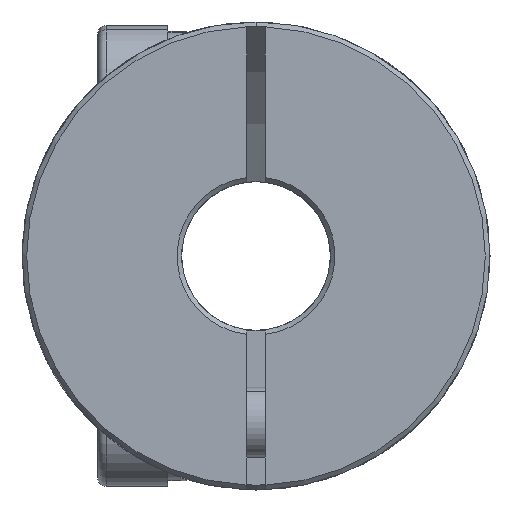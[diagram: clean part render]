
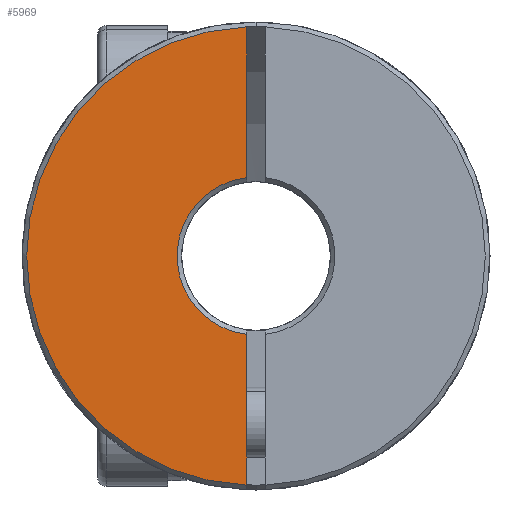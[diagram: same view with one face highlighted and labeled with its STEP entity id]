
A CAD part, front view. The second image highlights one B-rep face of the part: STEP entity #5969.
In plain terms, the highlighted planar face has unit normal (0, -1, 0).
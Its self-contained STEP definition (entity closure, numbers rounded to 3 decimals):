
#155 = ORIENTED_EDGE ( 'NONE', *, *, #4308, .T. ) ;
#194 = DIRECTION ( 'NONE',  ( 0., 1., 0. ) ) ;
#238 = VECTOR ( 'NONE', #5123, 1000. ) ;
#482 = DIRECTION ( 'NONE',  ( 0., -1., 0. ) ) ;
#548 = VECTOR ( 'NONE', #2554, 1000. ) ;
#689 = DIRECTION ( 'NONE',  ( 0., 1., 0. ) ) ;
#1222 = CARTESIAN_POINT ( 'NONE',  ( 0., -17.5, 0. ) ) ;
#2057 = EDGE_CURVE ( 'NONE', #6724, #6749, #2504, .T. ) ;
#2107 = VERTEX_POINT ( 'NONE', #3464 ) ;
#2114 = CIRCLE ( 'NONE', #7343, 3.375 ) ;
#2418 = AXIS2_PLACEMENT_3D ( 'NONE', #4220, #194, #6461 ) ;
#2504 = LINE ( 'NONE', #5709, #238 ) ;
#2554 = DIRECTION ( 'NONE',  ( 0., 0., -1. ) ) ;
#2911 = CIRCLE ( 'NONE', #7295, 9.8 ) ;
#3464 = CARTESIAN_POINT ( 'NONE',  ( -0.4, -17.5, 9.792 ) ) ;
#3598 = ORIENTED_EDGE ( 'NONE', *, *, #6894, .F. ) ;
#3689 = LINE ( 'NONE', #4824, #548 ) ;
#4133 = ORIENTED_EDGE ( 'NONE', *, *, #4553, .T. ) ;
#4220 = CARTESIAN_POINT ( 'NONE',  ( 0., -17.5, 0. ) ) ;
#4308 = EDGE_CURVE ( 'NONE', #6724, #6045, #2114, .T. ) ;
#4384 = ORIENTED_EDGE ( 'NONE', *, *, #2057, .F. ) ;
#4553 = EDGE_CURVE ( 'NONE', #2107, #6749, #2911, .T. ) ;
#4824 = CARTESIAN_POINT ( 'NONE',  ( -0.4, -17.5, 0. ) ) ;
#5065 = CARTESIAN_POINT ( 'NONE',  ( 0., -17.5, 0. ) ) ;
#5123 = DIRECTION ( 'NONE',  ( 0., 0., -1. ) ) ;
#5275 = CARTESIAN_POINT ( 'NONE',  ( -0.4, -17.5, -3.351 ) ) ;
#5436 = EDGE_LOOP ( 'NONE', ( #3598, #4133, #4384, #155 ) ) ;
#5709 = CARTESIAN_POINT ( 'NONE',  ( -0.4, -17.5, 0. ) ) ;
#5868 = PLANE ( 'NONE',  #2418 ) ;
#5953 = CARTESIAN_POINT ( 'NONE',  ( -0.4, -17.5, -9.792 ) ) ;
#5969 = ADVANCED_FACE ( 'NONE', ( #6278 ), #5868, .F. ) ;
#6015 = CARTESIAN_POINT ( 'NONE',  ( -0.4, -17.5, 3.351 ) ) ;
#6045 = VERTEX_POINT ( 'NONE', #6015 ) ;
#6152 = DIRECTION ( 'NONE',  ( 0., 0., 1. ) ) ;
#6278 = FACE_OUTER_BOUND ( 'NONE', #5436, .T. ) ;
#6448 = DIRECTION ( 'NONE',  ( 0., 0., 1. ) ) ;
#6461 = DIRECTION ( 'NONE',  ( 0., 0., 1. ) ) ;
#6724 = VERTEX_POINT ( 'NONE', #5275 ) ;
#6749 = VERTEX_POINT ( 'NONE', #5953 ) ;
#6894 = EDGE_CURVE ( 'NONE', #2107, #6045, #3689, .T. ) ;
#7295 = AXIS2_PLACEMENT_3D ( 'NONE', #5065, #482, #6152 ) ;
#7343 = AXIS2_PLACEMENT_3D ( 'NONE', #1222, #689, #6448 ) ;
